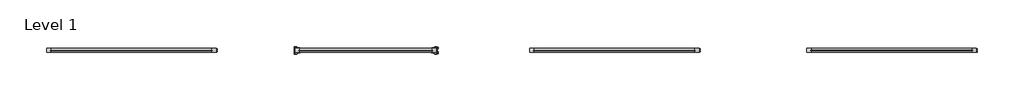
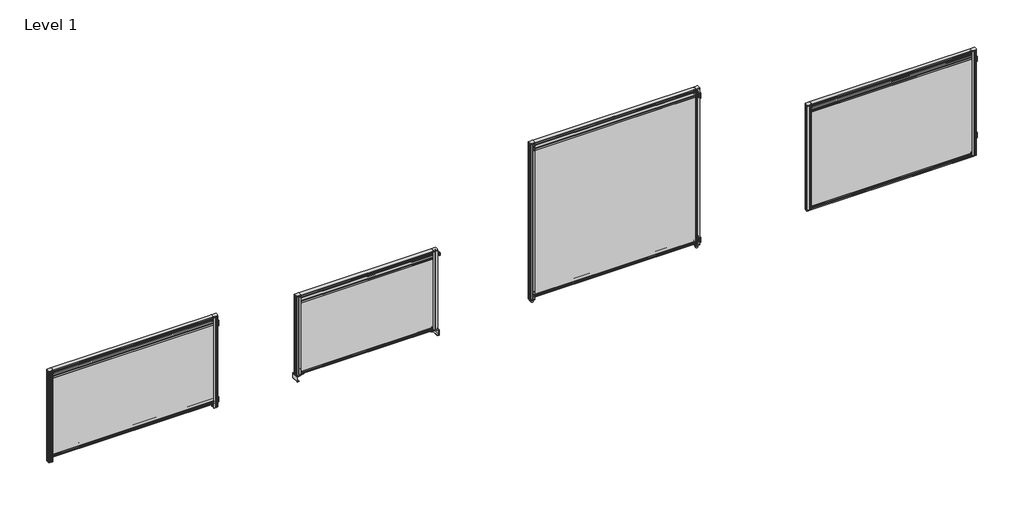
# One storey, incomplete: 4 furniture elements.
"""IFC4 building model written with IfcOpenShell, lengths in millimetres."""

from ifc_helpers import new_model, si_unit, origin, place, context, project, spatial, transform, mapped, element, save
from components import bench_screen_bench_screen_04dcad76, floor_screen_floor_screen_8b4445b1, privacy_screen_privacy_screen_7e7c204a, standard_screen_standard_screen_f20f7902

model = new_model("IFC4")

# Units and contexts
model_context = context("Model", 3, world=origin())
ifc_project = project(units=[si_unit("LENGTHUNIT", "METRE", prefix="MILLI")], contexts=[model_context])

# Site, building, storey
site = spatial("IfcSite", under=ifc_project)
building = spatial("IfcBuilding", under=site)
storey = spatial("IfcBuildingStorey", under=building, Name="Level 1", Elevation=0.0)

# Furniture
placement = place(None, origin())
bench_screen_bench_screen_shape = bench_screen_bench_screen_04dcad76(model_context)
element("IfcFurniture", 1, ObjectType="Bench Screen : Bench Screen", at=placement, inside=storey, context=model_context, shape_type="MappedRepresentation", body=[
    mapped(bench_screen_bench_screen_shape, transform((-12221.1227226, -339.9667485, 0.0), x_axis=(1.0, 0.0, 0.0), y_axis=(0.0, 1.0, 0.0), z_axis=(0.0, 0.0, 1.0))),
])
floor_screen_floor_screen_shape = floor_screen_floor_screen_8b4445b1(model_context)
element("IfcFurniture", 2, ObjectType="Floor Screen : Floor Screen", at=placement, inside=storey, context=model_context, shape_type="MappedRepresentation", body=[
    mapped(floor_screen_floor_screen_shape, transform((-13693.3920856, -339.9667485, 0.0), x_axis=(1.0, 0.0, 0.0), y_axis=(0.0, 1.0, 0.0), z_axis=(0.0, 0.0, 1.0))),
])
privacy_screen_privacy_screen_shape = privacy_screen_privacy_screen_7e7c204a(model_context)
element("IfcFurniture", 3, ObjectType="Privacy Screen : Privacy Screen", at=placement, inside=storey, context=model_context, shape_type="MappedRepresentation", body=[
    mapped(privacy_screen_privacy_screen_shape, transform((-15013.3577214, -339.9667485, 0.0), x_axis=(1.0, 0.0, 0.0), y_axis=(0.0, 1.0, 0.0), z_axis=(0.0, 0.0, 1.0))),
])
standard_screen_standard_screen_shape = standard_screen_standard_screen_f20f7902(model_context)
element("IfcFurniture", 4, ObjectType="Standard Screen : Standard Screen", at=placement, inside=storey, context=model_context, shape_type="MappedRepresentation", body=[
    mapped(standard_screen_standard_screen_shape, transform((-16257.1714936, -339.9667485, 0.0), x_axis=(1.0, 0.0, 0.0), y_axis=(0.0, 1.0, 0.0), z_axis=(0.0, 0.0, 1.0))),
])

save(model, "model.ifc")
